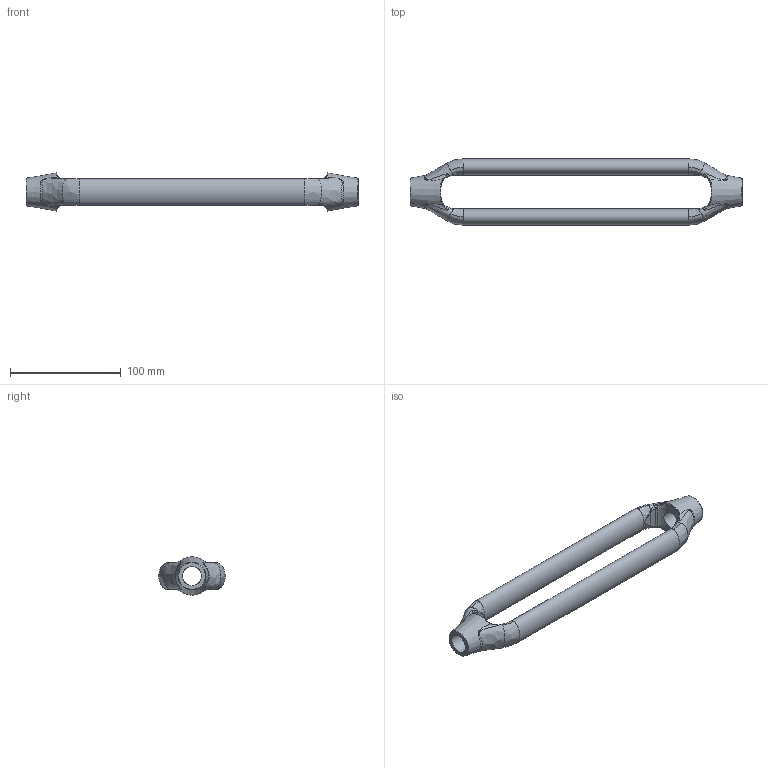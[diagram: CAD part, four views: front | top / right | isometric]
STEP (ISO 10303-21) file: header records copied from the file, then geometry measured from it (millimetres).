
FILE_DESCRIPTION(/* description */ (''),/* implementation_level */ '2;1');
FILE_NAME(/* name */ 'C:\Users\D\Documents\Inventor\各種小物\JIS\ターンバックル\胴\JIS\M20.stp',/* time_stamp */ '2022-06-17T10:59:14+09:00',/* author */ ('D'),/* organization */ (''),/* preprocessor_version */ 'ST-DEVELOPER v18',/* originating_system */ 'Autodesk Inventor 2020',/* authorisation */ '');
FILE_SCHEMA (('AUTOMOTIVE_DESIGN { 1 0 10303 214 3 1 1 }'));
Length unit declared in the file: millimetre
Products named in the file (1): M12
Bounding box: 300 x 59.96 x 34.58 mm (x, y, z)
Volume: 167390.2 mm3; surface area: 40643.7 mm2
Topology: 1 solids, 1 shells, 138 faces, 353 edges, 205 vertices
Faces by surface type: bspline 98, cylinder 18, plane 14, torus 6, cone 2
Full cylindrical faces by diameter (mm): 17.294 x2
Entity records: 6958 total; most frequent: CARTESIAN_POINT 4136, ORIENTED_EDGE 690, DIRECTION 422, EDGE_CURVE 345, VERTEX_POINT 205, AXIS2_PLACEMENT_3D 194, B_SPLINE_CURVE_WITH_KNOTS 158, EDGE_LOOP 140
